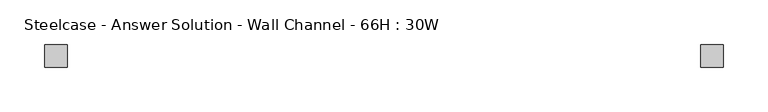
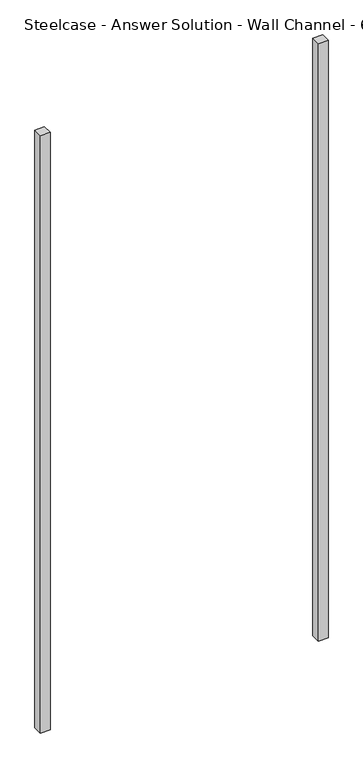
"""IFC4 building model written with IfcOpenShell, lengths in millimetres: furniture geometry, Steelcase - Answer Solution - Wall Channel - 66H : 30W."""

import ifcopenshell
import ifcopenshell.guid

model = None  # the IFC model being written
_history = None  # IfcOwnerHistory: only IFC2X3 demands one
_inside = {}  # id of a spatial element -> (the spatial element, [elements in it])
_under = {}  # id of a project, library or spatial element -> (it, [spatial elements below it])
_declared = {}  # id of a project -> (the project, [libraries it declares])
_typed = {}  # id of a type object -> (the type object, [elements of that type])
_made_of = {}  # id of a material, layer set ... -> (it, [elements and type objects made of it])


def new_model(schema):
    """Start an empty IFC model of exactly this schema.

    Asked for "IFC4X3", IfcOpenShell would pick the latest addendum, in which some entities
    have other attributes; the version numbers below select the first issue.
    IFC2X3 requires an IfcOwnerHistory on every rooted entity: one is made here for all.
    """
    global model, _history
    if schema == "IFC4X3":
        model = ifcopenshell.file(schema_version=(4, 3, 0, 0))
    else:
        model = ifcopenshell.file(schema=schema)
    _inside.clear()
    _under.clear()
    _declared.clear()
    _typed.clear()
    _made_of.clear()
    _history = None
    if model.schema == "IFC2X3":
        org = make("IfcOrganization", Name="unknown")
        user = make(
            "IfcPersonAndOrganization",
            ThePerson=make("IfcPerson", FamilyName="unknown"),
            TheOrganization=org,
        )
        app = make(
            "IfcApplication",
            ApplicationDeveloper=org,
            Version="unknown",
            ApplicationFullName="unknown",
            ApplicationIdentifier="unknown",
        )
        _history = make(
            "IfcOwnerHistory",
            OwningUser=user,
            OwningApplication=app,
            ChangeAction="ADDED",
            CreationDate=0,
        )
    return model


def make(cls, **values):
    """One entity of the class cls with the attributes given. An attribute that is None is left unset."""
    return model.create_entity(
        cls, **{name: value for name, value in values.items() if value is not None}
    )


def rooted(cls, **values):
    """An entity with a GlobalId (a new one), such as an element, a storey or a relation."""
    return make(cls, GlobalId=ifcopenshell.guid.new(), OwnerHistory=_history, **values)


def si_unit(unit_type, name, prefix=None):
    """IfcSIUnit, for example si_unit("LENGTHUNIT", "METRE", prefix="MILLI")."""
    return make("IfcSIUnit", UnitType=unit_type, Prefix=prefix, Name=name)


def assignment(units):
    """IfcUnitAssignment: the units of a project."""
    return None if units is None else make("IfcUnitAssignment", Units=units)


def point(xyz):
    """IfcCartesianPoint."""
    return None if xyz is None else make("IfcCartesianPoint", Coordinates=xyz)


def direction(xyz):
    """IfcDirection."""
    return None if xyz is None else make("IfcDirection", DirectionRatios=xyz)


def frame(location, z_axis=None, x_axis=None):
    """IfcAxis2Placement3D, a coordinate frame: its origin and axes. An axis left out is left unset."""
    return make(
        "IfcAxis2Placement3D",
        Location=point(location),
        Axis=direction(z_axis),
        RefDirection=direction(x_axis),
    )


def origin():
    """The frame at (0, 0, 0) with its axes left unset."""
    return frame((0.0, 0.0, 0.0))


def origin_with_axes():
    """The frame at (0, 0, 0) with the z axis (0, 0, 1) and the x axis (1, 0, 0) written out."""
    return frame((0.0, 0.0, 0.0), z_axis=(0.0, 0.0, 1.0), x_axis=(1.0, 0.0, 0.0))


def place(relative_to, where):
    """IfcLocalPlacement: puts the frame where relative to a parent placement (None: the world)."""
    return make(
        "IfcLocalPlacement", PlacementRelTo=relative_to, RelativePlacement=where
    )


def context(
    kind, dimensions, precision=None, world=None, true_north=None, identifier=None
):
    """IfcGeometricRepresentationContext, for example the 3D "Model" context."""
    return make(
        "IfcGeometricRepresentationContext",
        ContextIdentifier=identifier,
        ContextType=kind,
        CoordinateSpaceDimension=dimensions,
        Precision=precision,
        WorldCoordinateSystem=world,
        TrueNorth=true_north,
    )


def project(units=None, contexts=None):
    """IfcProject with its units and contexts."""
    return rooted(
        "IfcProject",
        Name="project",
        RepresentationContexts=contexts,
        UnitsInContext=assignment(units),
    )


def spatial(cls, under=None, at=None, **own):
    """A site, building, storey or space (cls), placed at a placement, below another one or the project."""
    s = rooted(cls, ObjectPlacement=at, **own)
    if under is not None:
        _under.setdefault(under.id(), (under, []))[1].append(s)
    return s


def polyline(points):
    """IfcPolyline through the points."""
    return make("IfcPolyline", Points=[point(p) for p in points])


def outline(outer, holes=None, kind="AREA"):
    """IfcArbitraryClosedProfileDef: a profile drawn as a closed curve; with holes, ...WithVoids."""
    if holes is None:
        return make("IfcArbitraryClosedProfileDef", ProfileType=kind, OuterCurve=outer)
    return make(
        "IfcArbitraryProfileDefWithVoids",
        ProfileType=kind,
        OuterCurve=outer,
        InnerCurves=holes,
    )


def extrude(swept, where, along, depth):
    """IfcExtrudedAreaSolid: the profile swept, set in the frame where, extruded along a direction by depth."""
    return make(
        "IfcExtrudedAreaSolid",
        SweptArea=swept,
        Position=where,
        ExtrudedDirection=direction(along),
        Depth=depth,
    )


def shape(context_of_items, identifier, shape_type, items):
    """IfcShapeRepresentation: the items that make up one representation, for example the "Body"."""
    return make(
        "IfcShapeRepresentation",
        ContextOfItems=context_of_items,
        RepresentationIdentifier=identifier,
        RepresentationType=shape_type,
        Items=items,
    )


def source(mapping_origin, context_of_items, identifier, shape_type, items):
    """IfcRepresentationMap: a shape defined once, which mapped items show again and again."""
    return make(
        "IfcRepresentationMap",
        MappingOrigin=mapping_origin,
        MappedRepresentation=shape(context_of_items, identifier, shape_type, items),
    )


def transform(
    local_origin,
    x_axis=None,
    y_axis=None,
    z_axis=None,
    scale=None,
    scale2=None,
    scale3=None,
    uniform=True,
):
    """IfcCartesianTransformationOperator3D, or its non-uniform kind. x_axis, y_axis, z_axis: its Axis1, 2, 3."""
    if uniform:
        return make(
            "IfcCartesianTransformationOperator3D",
            Axis1=direction(x_axis),
            Axis2=direction(y_axis),
            LocalOrigin=point(local_origin),
            Scale=scale,
            Axis3=direction(z_axis),
        )
    return make(
        "IfcCartesianTransformationOperator3DnonUniform",
        Axis1=direction(x_axis),
        Axis2=direction(y_axis),
        LocalOrigin=point(local_origin),
        Scale=scale,
        Axis3=direction(z_axis),
        Scale2=scale2,
        Scale3=scale3,
    )


def mapped(mapping_source, mapping_target):
    """IfcMappedItem: shows the shape of a source again, moved by a transform."""
    return make(
        "IfcMappedItem", MappingSource=mapping_source, MappingTarget=mapping_target
    )


def made_of(thing, what):
    """Note that an element or type object is made of a material, layer set ...; save() writes the relation."""
    if what is not None:
        _made_of.setdefault(what.id(), (what, []))[1].append(thing)
    return thing


def element(
    cls,
    number,
    at=None,
    inside=None,
    cuts=None,
    type_object=None,
    material=None,
    context=None,
    identifier="Body",
    shape_type=None,
    held_by="IfcProductDefinitionShape",
    body=None,
    shapes=None,
    **own,
):
    """One element of the class cls, such as IfcWall. Its Tag is "e" and its number.

    at: its placement. inside: the storey or other place that contains it. cuts: it is an
    opening in that element (IfcRelVoidsElement). A single representation is given by context,
    identifier, shape_type and body (its items); several are given by shapes. held_by: the class
    of the entity that holds the representations. save() writes the other relations.
    """
    e = rooted(cls, Tag="e%d" % number, ObjectPlacement=at, **own)
    if body is not None:
        shapes = [shape(context, identifier, shape_type, body)]
    if shapes is not None:
        e.Representation = make(held_by, Representations=shapes)
    if inside is not None:
        _inside.setdefault(inside.id(), (inside, []))[1].append(e)
    if cuts is not None:
        rooted(
            "IfcRelVoidsElement", RelatingBuildingElement=cuts, RelatedOpeningElement=e
        )
    if type_object is not None:
        _typed.setdefault(type_object.id(), (type_object, []))[1].append(e)
    return made_of(e, material)


def aggregate(whole, parts):
    """IfcRelAggregates: a whole, such as a stair, and the parts it consists of."""
    return rooted("IfcRelAggregates", RelatingObject=whole, RelatedObjects=parts)


def save(model, path):
    """Write the relations noted so far, then the file.

    IfcRelAggregates (storeys below a building ...), IfcRelContainedInSpatialStructure (elements
    in a storey), IfcRelDefinesByType, IfcRelAssociatesMaterial and IfcRelDeclares: one each for
    every whole, place, type object, material and project.
    """
    for whole, parts in _under.values():
        aggregate(whole, parts)
    for where, things in _inside.values():
        rooted(
            "IfcRelContainedInSpatialStructure",
            RelatedElements=things,
            RelatingStructure=where,
        )
    for kind, things in _typed.values():
        rooted("IfcRelDefinesByType", RelatedObjects=things, RelatingType=kind)
    for what, things in _made_of.values():
        rooted("IfcRelAssociatesMaterial", RelatedObjects=things, RelatingMaterial=what)
    for by, libraries in _declared.values():
        rooted("IfcRelDeclares", RelatingContext=by, RelatedDefinitions=libraries)
    model.write(path)


def steelcase_answer_solution_wall_channel_66h_30w_994337a1(model_context):
    return source(origin(), model_context, "Body", "SweptSolid", [
        extrude(outline(polyline([(736.6, 0.0), (762.0, 0.0), (762.0, -25.4), (736.6, -25.4), (736.6, 0.0)])), origin_with_axes(), (0.0, 0.0, 1.0), 1673.225),
        extrude(outline(polyline([(25.4, 0.0), (25.4, -25.4), (0.0, -25.4), (0.0, 0.0), (25.4, 0.0)])), origin_with_axes(), (0.0, 0.0, 1.0), 1673.225),
    ])


if __name__ == "__main__":
    model = new_model("IFC4")
    model_context = context("Model", 3, world=origin())
    ifc_project = project(units=[si_unit("LENGTHUNIT", "METRE", prefix="MILLI")], contexts=[model_context])
    site = spatial("IfcSite", under=ifc_project)
    building = spatial("IfcBuilding", under=site)
    placement = place(None, origin())
    steelcase_answer_solution_wall_channel_66h_30w_shape = steelcase_answer_solution_wall_channel_66h_30w_994337a1(model_context)
    element("IfcFurniture", 1, ObjectType="Steelcase - Answer Solution - Wall Channel - 66H : 30W", at=placement, inside=building, context=model_context, shape_type="MappedRepresentation", body=[
        mapped(steelcase_answer_solution_wall_channel_66h_30w_shape, transform((0.0, 0.0, 0.0), x_axis=(1.0, 0.0, 0.0), y_axis=(0.0, 1.0, 0.0), z_axis=(0.0, 0.0, 1.0))),
    ])
    save(model, "model.ifc")
